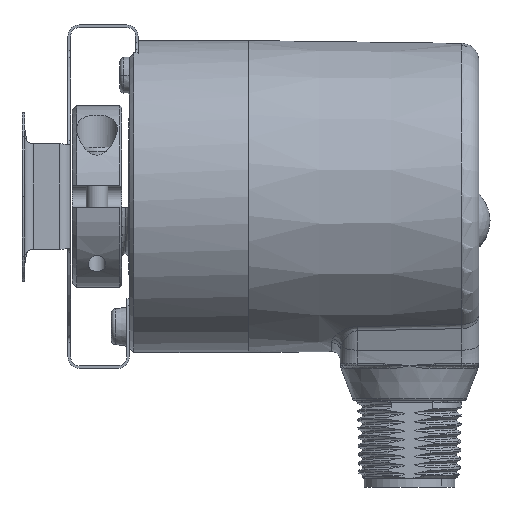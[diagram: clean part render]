
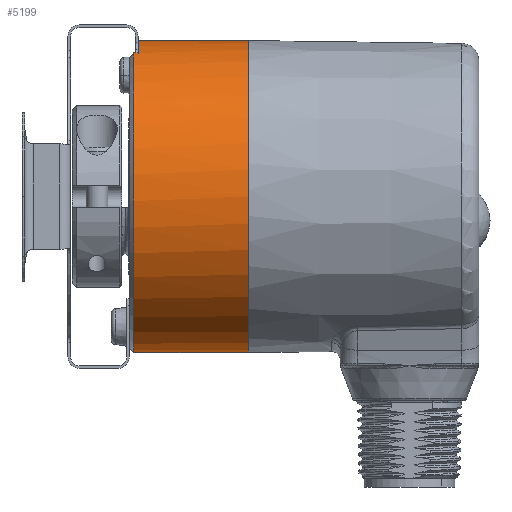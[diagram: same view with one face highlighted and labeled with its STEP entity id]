
A CAD part, front view. The second image highlights one B-rep face of the part: STEP entity #5199.
In plain terms, the highlighted cylindrical face has radius 18 mm (diameter 36 mm), a partial arc.
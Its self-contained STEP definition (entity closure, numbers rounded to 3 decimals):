
#980 = DIRECTION ( 'NONE',  ( -1., 0., 0. ) ) ;
#1553 = VERTEX_POINT ( 'NONE', #24928 ) ;
#1721 = VECTOR ( 'NONE', #19408, 1000. ) ;
#1937 = CARTESIAN_POINT ( 'NONE',  ( 1., 0., 18. ) ) ;
#2297 = FACE_OUTER_BOUND ( 'NONE', #11130, .T. ) ;
#2595 = VERTEX_POINT ( 'NONE', #28006 ) ;
#2865 = LINE ( 'NONE', #44722, #1721 ) ;
#3961 = LINE ( 'NONE', #16547, #24322 ) ;
#4295 = LINE ( 'NONE', #37024, #32011 ) ;
#4622 = AXIS2_PLACEMENT_3D ( 'NONE', #24164, #13443, #24324 ) ;
#4696 = AXIS2_PLACEMENT_3D ( 'NONE', #41051, #19366, #44683 ) ;
#4963 = CARTESIAN_POINT ( 'NONE',  ( 0.5, 0., 0. ) ) ;
#5199 = ADVANCED_FACE ( 'NONE', ( #2297 ), #18207, .T. ) ;
#5631 = EDGE_CURVE ( 'NONE', #36975, #17017, #2865, .T. ) ;
#7054 = CARTESIAN_POINT ( 'NONE',  ( 0.5, -7., 16.583 ) ) ;
#7182 = ORIENTED_EDGE ( 'NONE', *, *, #32775, .F. ) ;
#8620 = DIRECTION ( 'NONE',  ( 0., 0., -1. ) ) ;
#9376 = ORIENTED_EDGE ( 'NONE', *, *, #5631, .T. ) ;
#10169 = CARTESIAN_POINT ( 'NONE',  ( 1., 0., 0. ) ) ;
#11130 = EDGE_LOOP ( 'NONE', ( #7182, #41429, #9376, #11738, #37351, #40050 ) ) ;
#11738 = ORIENTED_EDGE ( 'NONE', *, *, #30200, .F. ) ;
#12902 = DIRECTION ( 'NONE',  ( -1., 0., 0. ) ) ;
#13443 = DIRECTION ( 'NONE',  ( -1., 0., 0. ) ) ;
#13830 = DIRECTION ( 'NONE',  ( 0., 0., 1. ) ) ;
#16547 = CARTESIAN_POINT ( 'NONE',  ( -1.958, 0., -18. ) ) ;
#17017 = VERTEX_POINT ( 'NONE', #1937 ) ;
#17526 = EDGE_CURVE ( 'NONE', #2595, #43755, #4295, .T. ) ;
#18207 = CYLINDRICAL_SURFACE ( 'NONE', #4622, 18. ) ;
#18721 = AXIS2_PLACEMENT_3D ( 'NONE', #10169, #35456, #13830 ) ;
#19366 = DIRECTION ( 'NONE',  ( -1., 0., 0. ) ) ;
#19408 = DIRECTION ( 'NONE',  ( -1., 0., 0. ) ) ;
#19945 = CIRCLE ( 'NONE', #18721, 18. ) ;
#24164 = CARTESIAN_POINT ( 'NONE',  ( -1.958, 0., 0. ) ) ;
#24322 = VECTOR ( 'NONE', #12902, 1000. ) ;
#24324 = DIRECTION ( 'NONE',  ( 0., 0., 1. ) ) ;
#24928 = CARTESIAN_POINT ( 'NONE',  ( 0.5, 0., -18. ) ) ;
#27612 = AXIS2_PLACEMENT_3D ( 'NONE', #4963, #30298, #8620 ) ;
#28006 = CARTESIAN_POINT ( 'NONE',  ( 1., -7., 16.583 ) ) ;
#30200 = EDGE_CURVE ( 'NONE', #2595, #17017, #19945, .T. ) ;
#30298 = DIRECTION ( 'NONE',  ( 1., 0., 0. ) ) ;
#31379 = CIRCLE ( 'NONE', #27612, 18. ) ;
#32011 = VECTOR ( 'NONE', #980, 1000. ) ;
#32775 = EDGE_CURVE ( 'NONE', #44307, #1553, #3961, .T. ) ;
#33166 = EDGE_CURVE ( 'NONE', #44307, #36975, #45286, .T. ) ;
#35456 = DIRECTION ( 'NONE',  ( -1., 0., 0. ) ) ;
#36975 = VERTEX_POINT ( 'NONE', #38986 ) ;
#37024 = CARTESIAN_POINT ( 'NONE',  ( -1.958, -7., 16.583 ) ) ;
#37351 = ORIENTED_EDGE ( 'NONE', *, *, #17526, .T. ) ;
#37726 = CARTESIAN_POINT ( 'NONE',  ( 13.7, 0., -18. ) ) ;
#38986 = CARTESIAN_POINT ( 'NONE',  ( 13.7, 0., 18. ) ) ;
#40050 = ORIENTED_EDGE ( 'NONE', *, *, #42233, .T. ) ;
#41051 = CARTESIAN_POINT ( 'NONE',  ( 13.7, 0., 0. ) ) ;
#41429 = ORIENTED_EDGE ( 'NONE', *, *, #33166, .T. ) ;
#42233 = EDGE_CURVE ( 'NONE', #43755, #1553, #31379, .T. ) ;
#43755 = VERTEX_POINT ( 'NONE', #7054 ) ;
#44307 = VERTEX_POINT ( 'NONE', #37726 ) ;
#44683 = DIRECTION ( 'NONE',  ( 0., 0., 1. ) ) ;
#44722 = CARTESIAN_POINT ( 'NONE',  ( -1.958, 0., 18. ) ) ;
#45286 = CIRCLE ( 'NONE', #4696, 18. ) ;
